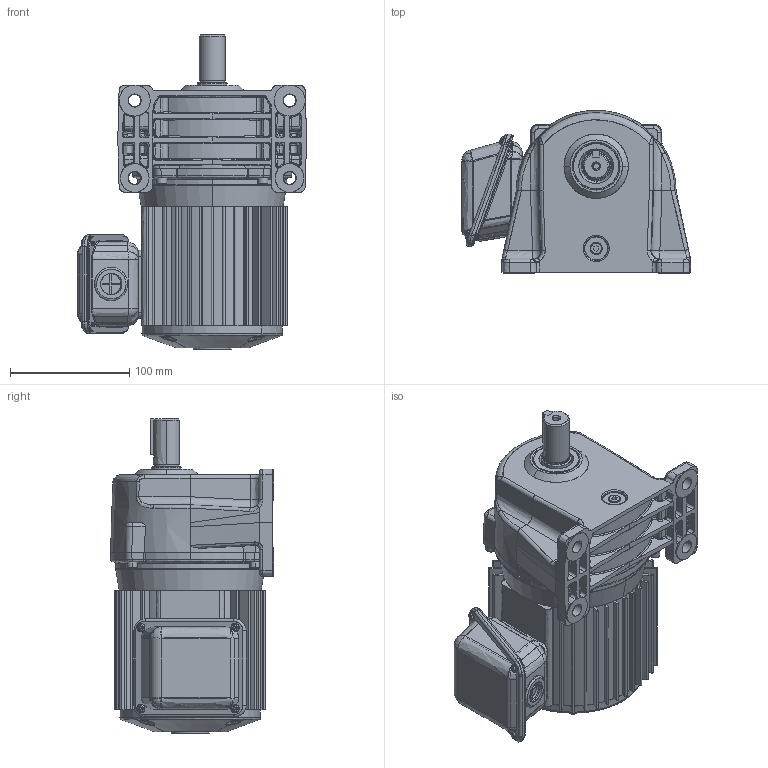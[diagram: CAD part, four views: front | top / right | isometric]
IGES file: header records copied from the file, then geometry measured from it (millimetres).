
Start section: SolidWorks IGES file using analytic representation for surfaces
Global section: file name: \\100.100.100.8\1_共有作業フォルダ\1-5_３Ｄデータ\solidworks\personal-folder\H.Nagayama\SGP1外形\P1(3D)\igs\TML2-01-(60~200).IGS; native system: SolidWorks 2018; preprocessor: SolidWorks 2018; author: sigma-giken; date: 200512.115140; units: millimetre
Bounding box: 192.21 x 137 x 263.5 mm (x, y, z)
Surface area: 320740.1 mm2 (no closed solid volume)
Topology: 0 solids, 0 shells, 1540 faces, 17690 edges, 17658 vertices
Faces by surface type: bspline 812, revolution 728
